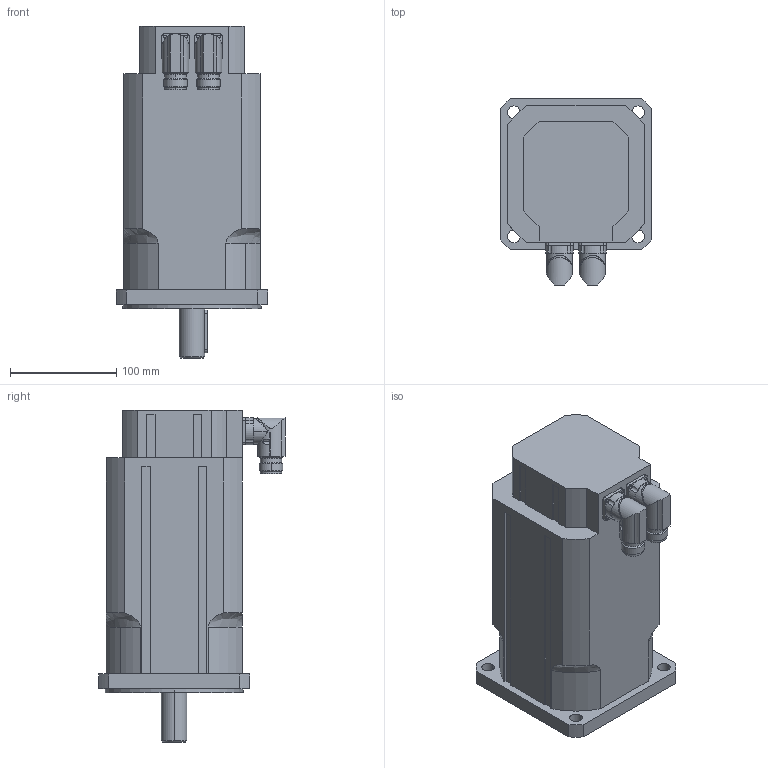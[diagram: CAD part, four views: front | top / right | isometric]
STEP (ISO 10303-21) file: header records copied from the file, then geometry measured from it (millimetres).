
FILE_DESCRIPTION(('STEP AP203'),'2;1');
FILE_NAME('MT5-1050_B.stp','2006-08-28T20:15:20',(''),(''),'2005.2.102','THINKDESIGN','');
FILE_SCHEMA(('CONFIG_CONTROL_DESIGN'));
Length unit declared in the file: millimetre
Bounding box: 142 x 175.5 x 312 mm (x, y, z)
Volume: 3962730.4 mm3; surface area: 191654 mm2
Topology: 3 solids, 3 shells, 255 faces, 679 edges, 439 vertices
Faces by surface type: cylinder 110, plane 107, bspline 38
Full cylindrical faces by diameter (mm): 20 x2
Entity records: 9316 total; most frequent: CARTESIAN_POINT 2863, ORIENTED_EDGE 1354, DIRECTION 1327, EDGE_CURVE 677, AXIS2_PLACEMENT_3D 493, VERTEX_POINT 439, VECTOR 341, LINE 341
